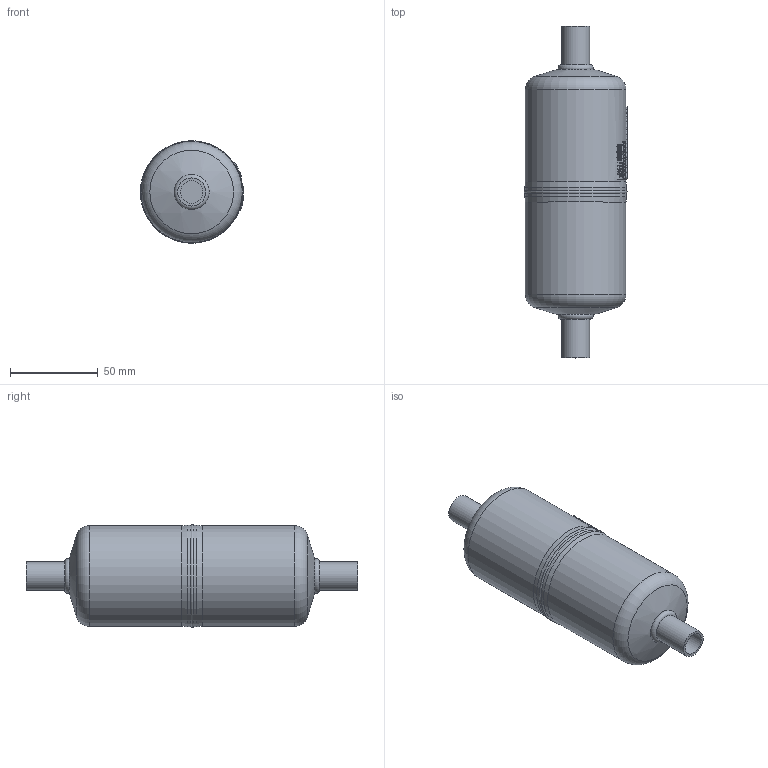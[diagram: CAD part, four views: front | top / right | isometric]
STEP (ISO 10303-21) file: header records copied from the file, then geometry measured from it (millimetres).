
FILE_DESCRIPTION(/* description */ (''),/* implementation_level */ '2;1');
FILE_NAME(/* name */ 'P:\GD\GD-1_2\GD-1_2.stp',/* time_stamp */ '2017-10-05T08:24:17+02:00',/* author */ ('neufeld'),/* organization */ (''),/* preprocessor_version */ 'ST-DEVELOPER v16.1',/* originating_system */ 'Autodesk Inventor 2016',/* authorisation */ '');
FILE_SCHEMA (('AUTOMOTIVE_DESIGN { 1 0 10303 214 3 1 1 }'));
Length unit declared in the file: millimetre
Products named in the file (2): GD-1_2; GD-1_2_1
Assembly tree (1 placements, depth 2):
  GD-1_2_1
    GD-1_2
Bounding box: 59.01 x 189.5 x 58.62 mm (x, y, z)
Volume: 354444.1 mm3; surface area: 32181.2 mm2
Topology: 1 solids, 1 shells, 1118 faces, 3058 edges, 2036 vertices
Faces by surface type: plane 615, bspline 396, cylinder 98, torus 7, sphere 2
Full cylindrical faces by diameter (mm): 12.9 x2, 16 x2, 57.4 x2, 58 x2
Entity records: 43283 total; most frequent: CARTESIAN_POINT 16824, ORIENTED_EDGE 6082, DIRECTION 4557, EDGE_CURVE 3041, VERTEX_POINT 2034, AXIS2_PLACEMENT_3D 1583, LINE 1391, VECTOR 1391
